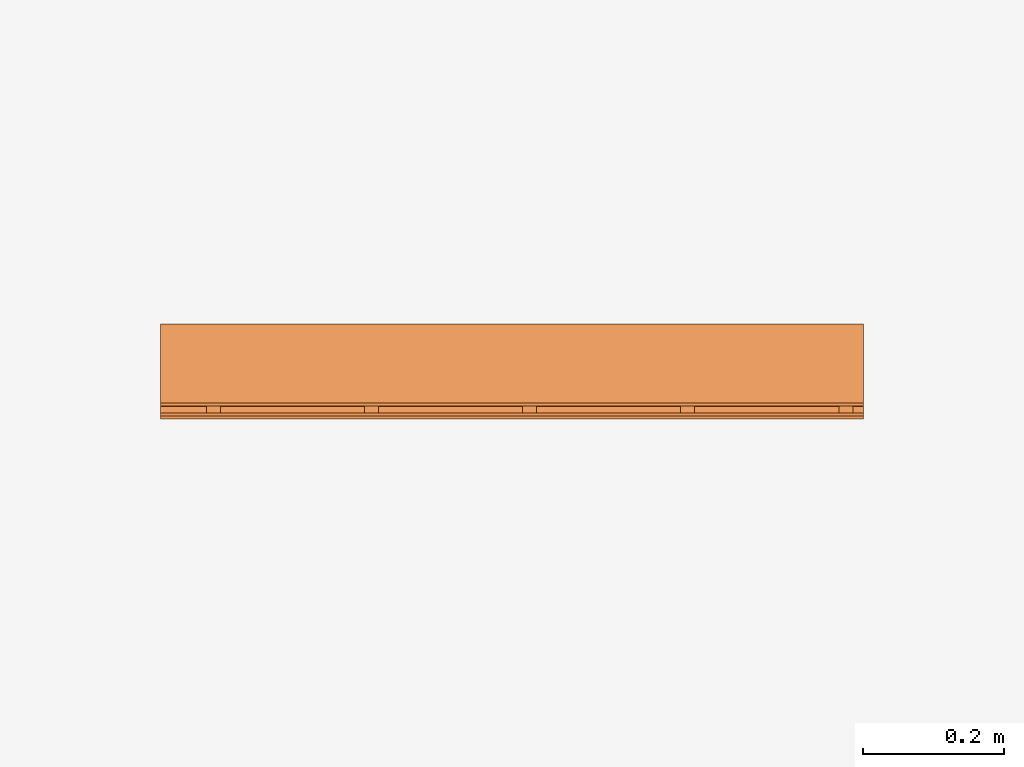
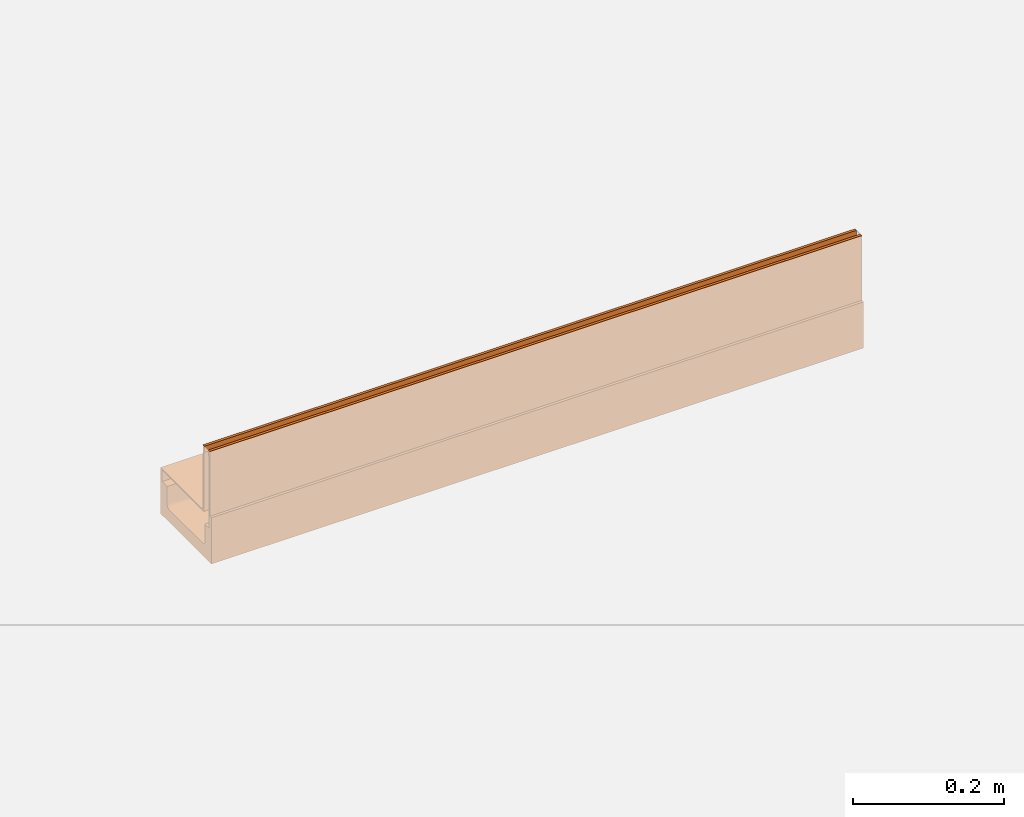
# One storey, part 2 of 2: 1 proxy.
"""IFC2X3 building model written with IfcOpenShell, lengths in millimetres."""

from ifc_helpers import new_model, entity, si_unit, converted_unit, direction, frame, frame_2d, origin, place, context, subcontext, project, spatial, polyline, circle_curve, parameter, trimmed, segment, composite_curve, outline, extrude, source, transform, mapped, material, material_list, element, save


model = new_model("IFC2X3")

# Units and contexts
model_context = context("Model", 3, precision=1e-06, world=origin(), true_north=direction((2.0, 6.12303176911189e-17, 1.0)))
context_of_model = context(None, 3, precision=1e-06, world=origin(), true_north=direction((2.0, 6.12303176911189e-17, 1.0)))
body_context = subcontext(model_context, "Body", "Model", "MODEL_VIEW")
ifc_project = project(units=[si_unit("LENGTHUNIT", "METRE", prefix="MILLI"), si_unit("AREAUNIT", "SQUARE_METRE", prefix="MILLI"), si_unit("VOLUMEUNIT", "CUBIC_METRE", prefix="MILLI"), converted_unit("PLANEANGLEUNIT", "DEGREE", entity("IfcRatioMeasure", 0.0174532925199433), si_unit("PLANEANGLEUNIT", "RADIAN"), dimensions=[0, 0, 0, 0, 0, 0, 0]), si_unit("TIMEUNIT", "SECOND")], contexts=[model_context, context_of_model])

# Site, building, storey
site_placement = place(None, origin())
site = spatial("IfcSite", under=ifc_project, at=site_placement, Name="Default", CompositionType="ELEMENT")
building_placement = place(site_placement, origin())
building = spatial("IfcBuilding", under=site, at=building_placement, CompositionType="ELEMENT")
storey_placement = place(building_placement, origin())
storey = spatial("IfcBuildingStorey", under=building, at=storey_placement, Name="Level 1", CompositionType="ELEMENT", Elevation=0.0)

# Proxy
ifc_material_1 = material(Name="Steel, Galvanized")
ifc_material_2 = material(Name="Vienite® Synthetic Resin Concrete")
ifc_material_list = material_list([ifc_material_1, ifc_material_2])
shared_shape = source(origin(), body_context, "Body", "SweptSolid", [
    extrude(outline(polyline([(-9.24999999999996, -10.0), (9.25000000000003, -10.0), (9.25, 10.0), (-9.25000000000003, 10.0), (-9.24999999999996, -10.0)]), holes=[polyline([(7.25000000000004, -8.0), (-7.25000000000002, -8.0), (-7.25000000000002, 8.0), (7.24999999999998, 8.0), (7.25000000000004, -8.0)])]), frame((-61.250000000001, 25.0, -116.249999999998), z_axis=(1.0, 0.0, 0.0), x_axis=(0.0, 0.0, -1.0)), (0.0, 0.0, 1.0), 124.5),
    extrude(outline(polyline([(45.5, -29.6250000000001), (55.5, -29.6250000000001), (55.5, -25.6249999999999), (-49.5, -25.6249999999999), (-49.5000000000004, 82.875), (-51.5, 82.875), (-51.4999999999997, -27.625), (45.5, -27.625), (45.5, -29.6250000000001)])), frame((-19.6250000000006, 0.0, -55.4999999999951), z_axis=(0.0, 1.0, 0.0), x_axis=(0.0, 0.0, 1.0)), (0.0, 0.0, 1.0), 1000.0),
    extrude(outline(polyline([(-80.3333333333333, -2.0), (45.1666666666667, -2.0), (45.1666666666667, 2.0), (35.1666666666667, 2.0), (35.1666666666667, 0.0), (-80.3333333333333, 0.0), (-80.3333333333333, -2.0)])), frame((-61.2500000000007, 0.0, -45.1666666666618), z_axis=(0.0, 1.0, 0.0), x_axis=(0.0, 0.0, 1.0)), (0.0, 0.0, 1.0), 1000.0),
    extrude(outline(polyline([(-9.24999999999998, -10.0), (9.25000000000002, -10.0), (9.24999999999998, 10.0), (-9.25000000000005, 10.0), (-9.24999999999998, -10.0)]), holes=[polyline([(7.25000000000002, -8.0), (-7.25000000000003, -8.0), (-7.25000000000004, 8.0), (7.24999999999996, 8.0), (7.25000000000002, -8.0)])]), frame((-61.2500000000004, 475.0, -116.249999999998), z_axis=(1.0, 0.0, 0.0), x_axis=(0.0, 0.0, -1.0)), (0.0, 0.0, 1.0), 124.5),
    extrude(outline(polyline([(-9.24999999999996, -10.0), (9.25000000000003, -10.0), (9.24999999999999, 10.0), (-9.25000000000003, 10.0), (-9.24999999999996, -10.0)]), holes=[polyline([(7.25000000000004, -8.0), (-7.25000000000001, -8.0), (-7.25000000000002, 8.0), (7.24999999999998, 8.0), (7.25000000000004, -8.0)])]), frame((-61.2500000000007, 250.0, -116.249999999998), z_axis=(1.0, 0.0, 0.0), x_axis=(0.0, 0.0, -1.0)), (0.0, 0.0, 1.0), 124.5),
    extrude(outline(composite_curve([segment(polyline([(-31.5714285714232, -67.4999999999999), (43.4285714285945, -67.4999999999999)]), True, "CONTINUOUS"), segment(polyline([(43.4285714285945, -67.4999999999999), (43.4285714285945, 67.5000000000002)]), True, "CONTINUOUS"), segment(polyline([(43.4285714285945, 67.5000000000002), (-31.5714285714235, 67.5000000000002)]), True, "CONTINUOUS"), segment(polyline([(-31.5714285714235, 67.5000000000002), (-31.5714285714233, 63.2500000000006)]), True, "CONTINUOUS"), segment(polyline([(-31.5714285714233, 63.2500000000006), (-11.0714285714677, 63.2500000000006)]), True, "CONTINUOUS"), segment(polyline([(-11.0714285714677, 63.2500000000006), (-11.0714285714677, 50.0)]), True, "CONTINUOUS"), segment(polyline([(-11.0714285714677, 50.0), (18.4285714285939, 50.0)]), True, "CONTINUOUS"), segment(trimmed(circle_curve(frame_2d((18.4285714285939, 45.0), x_axis=(0.0, -1.0)), 5.0), [parameter(89.9999999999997)], [parameter(179.999999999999)], True, "PARAMETER"), False, "CONTINUOUS"), segment(polyline([(23.428571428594, 45.0), (23.4285714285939, -45.0)]), True, "CONTINUOUS"), segment(trimmed(circle_curve(frame_2d((18.4285714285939, -45.0), x_axis=(0.0, -1.0)), 5.0), [parameter(0.0)], [parameter(90.0000000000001)], True, "PARAMETER"), False, "CONTINUOUS"), segment(polyline([(18.428571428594, -50.0), (-11.0714285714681, -50.0)]), True, "CONTINUOUS"), segment(polyline([(-11.0714285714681, -50.0), (-11.0714285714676, -63.2499999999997)]), True, "CONTINUOUS"), segment(polyline([(-11.0714285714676, -63.2499999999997), (-31.5714285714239, -63.2499999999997)]), True, "CONTINUOUS"), segment(polyline([(-31.5714285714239, -63.2499999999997), (-31.5714285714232, -67.4999999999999)]), True, "CONTINUOUS")], self_intersect=False)), frame((0.0, 0.0, -136.571428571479), z_axis=(0.0, 1.0, 0.0), x_axis=(0.0, 0.0, -1.0)), (0.0, 0.0, 1.0), 1000.0),
    extrude(outline(polyline([(-9.24999999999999, -10.0), (9.24999999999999, -10.0), (9.25000000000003, 10.0), (-9.24999999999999, 10.0), (-9.24999999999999, -10.0)]), holes=[polyline([(7.25000000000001, -8.0), (-7.25000000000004, -8.0), (-7.24999999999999, 8.0), (7.25000000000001, 8.0), (7.25000000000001, -8.0)])]), frame((-61.2499999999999, 925.0, -116.249999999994), z_axis=(1.0, 0.0, 0.0), x_axis=(0.0, 0.0, -1.0)), (0.0, 0.0, 1.0), 124.5),
    extrude(outline(polyline([(-9.25000000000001, -10.0), (9.24999999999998, -10.0), (9.25000000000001, 10.0), (-9.25000000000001, 10.0), (-9.25000000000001, -10.0)]), holes=[polyline([(7.24999999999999, -8.0), (-7.25000000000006, -8.0), (-7.25000000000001, 8.0), (7.24999999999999, 8.0), (7.24999999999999, -8.0)])]), frame((-61.2500000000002, 700.0, -116.249999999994), z_axis=(1.0, 0.0, 0.0), x_axis=(0.0, 0.0, -1.0)), (0.0, 0.0, 1.0), 124.5),
])
proxy_placement = place(storey_placement, frame((143.656586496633, 99.9218925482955, 0.0), z_axis=(0.0, 0.0, 1.0), x_axis=(0.0, 1.0, 0.0)))
element("IfcBuildingElementProxy", 1, at=proxy_placement, inside=storey, material=ifc_material_list, Name="Civil-Drainage-Channel-ACO-MultiDrain-M100D-Brickslot-Channel-System:23075 - No 075 Constant Depth Shallow Channel - 1000mm LG - Invert Depth 55mm:23075 - No 075 Constant Depth Shallow Channel - 1000mm LG - Invert Depth 55mm", ObjectType="23075 - No 075 Constant Depth Shallow Channel - 1000mm LG - Invert Depth 55mm", CompositionType="ELEMENT", context=body_context, shape_type="MappedRepresentation", body=[
    mapped(shared_shape, transform((0.0, 0.0, 0.0), scale=1.0)),
])

save(model, "model.ifc")
